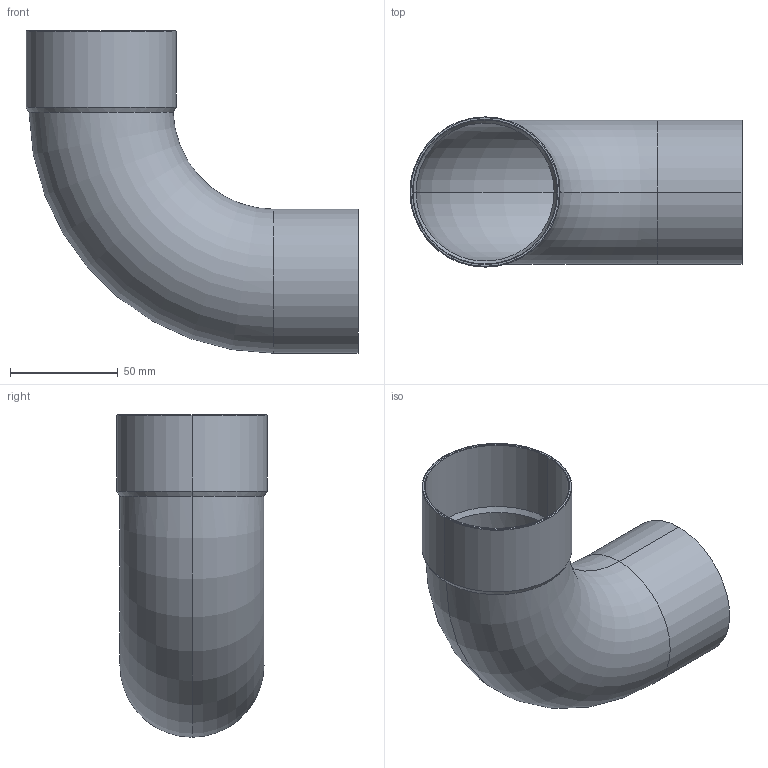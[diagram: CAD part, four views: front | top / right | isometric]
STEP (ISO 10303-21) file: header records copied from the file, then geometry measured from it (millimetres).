
FILE_DESCRIPTION((''),'2;1');
FILE_NAME('P:\Bouwmaten\z-maattekeningen 3D\5000\5001a\15001a67.stp','2005-10-04T14:59:06',('Kris'),(''),'Autodesk Inventor 8','Autodesk Inventor 8','');
FILE_SCHEMA(('AUTOMOTIVE_DESIGN { 1 0 10303 214 1 1 1 1 }'));
Length unit declared in the file: millimetre
Products named in the file (1): 15001a67
Bounding box: 153.75 x 69.5 x 149.35 mm (x, y, z)
Volume: 58165.3 mm3; surface area: 83632.3 mm2
Topology: 1 solids, 1 shells, 22 faces, 46 edges, 26 vertices
Faces by surface type: cone 8, cylinder 8, torus 4, plane 2
Entity records: 683 total; most frequent: CARTESIAN_POINT 175, DIRECTION 114, ORIENTED_EDGE 92, AXIS2_PLACEMENT_3D 49, EDGE_CURVE 46, VERTEX_POINT 26, CIRCLE 26, EDGE_LOOP 24
